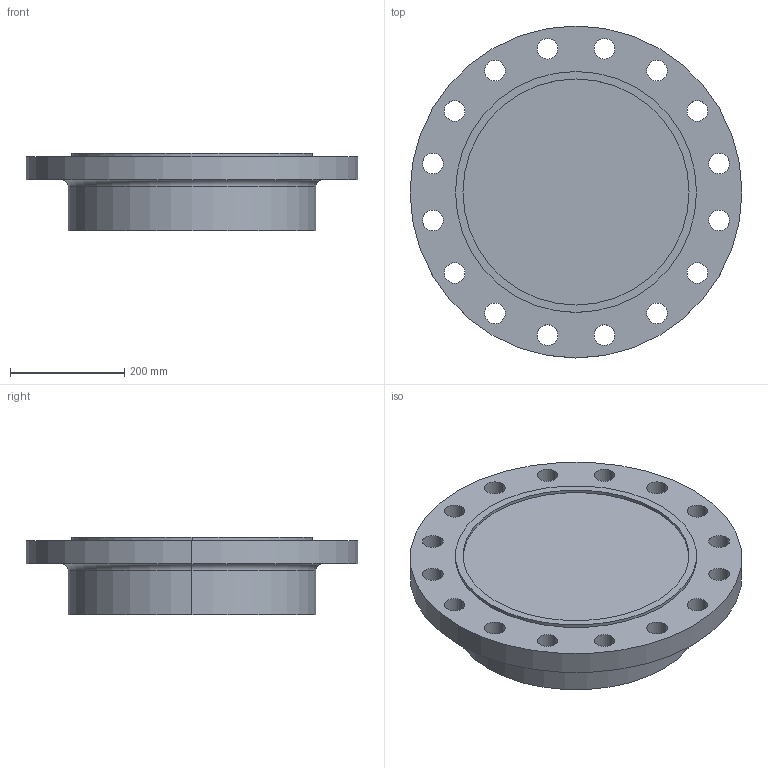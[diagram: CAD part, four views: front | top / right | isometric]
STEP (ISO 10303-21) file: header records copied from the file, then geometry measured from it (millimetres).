
FILE_DESCRIPTION (( 'STEP AP214' ), '1' );
FILE_NAME ('PN40 DN350 Type 21(i) - Type C Face.STEP', '2019-01-05T21:46:37', ( '' ), ( '' ), 'SwSTEP 2.0', 'SolidWorks 2019', '' );
FILE_SCHEMA (( 'AUTOMOTIVE_DESIGN' ));
Length unit declared in the file: millimetre
Products named in the file (1): PN40 DN350 Type 21(i) - Type C Face
Bounding box: 580 x 580 x 135 mm (x, y, z)
Volume: 23220044.2 mm3; surface area: 770888.4 mm2
Topology: 1 solids, 1 shells, 47 faces, 124 edges, 82 vertices
Faces by surface type: cylinder 40, plane 5, torus 2
Entity records: 1604 total; most frequent: DIRECTION 304, CARTESIAN_POINT 254, ORIENTED_EDGE 248, AXIS2_PLACEMENT_3D 132, EDGE_CURVE 124, CIRCLE 84, VERTEX_POINT 82, EDGE_LOOP 82
